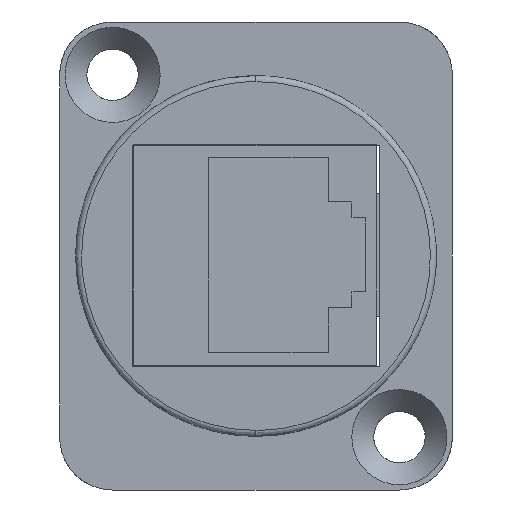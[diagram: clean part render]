
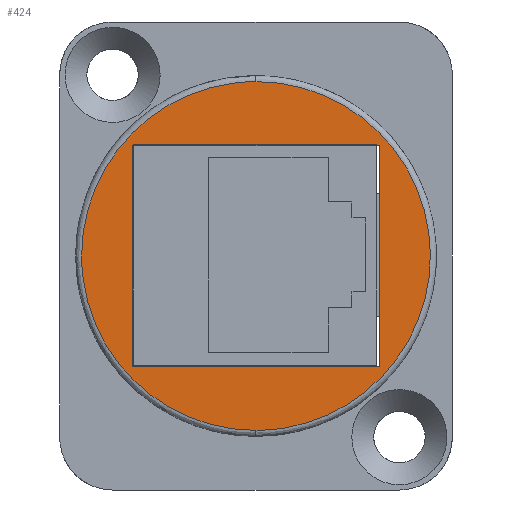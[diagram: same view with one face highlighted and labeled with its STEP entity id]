
A CAD part, front view. The second image highlights one B-rep face of the part: STEP entity #424.
In plain terms, the highlighted free-form (B-spline) face has degree [1, 1] with [2, 2] control points.
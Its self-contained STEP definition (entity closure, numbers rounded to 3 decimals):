
#44 = VERTEX_POINT('',#45);
#45 = CARTESIAN_POINT('',(0.,0.,-11.537));
#65 = EDGE_CURVE('',#44,#66,#68,.T.);
#66 = VERTEX_POINT('',#67);
#67 = CARTESIAN_POINT('',(-11.55,0.,0.013)
  );
#68 = B_SPLINE_CURVE_WITH_KNOTS('',5,(#69,#70,#71,#72,#73,#74,#75,#76,
    #77,#78,#79,#80,#81,#82,#83),.UNSPECIFIED.,.F.,.F.,(6,3,3,3,6),(0.,
    0.393,0.785,1.178,1.571),
  .UNSPECIFIED.);
#69 = CARTESIAN_POINT('',(0.,0.,
    -11.537));
#70 = CARTESIAN_POINT('',(-0.907,0.,
    -11.537));
#71 = CARTESIAN_POINT('',(-1.814,0.,
    -11.448));
#72 = CARTESIAN_POINT('',(-2.71,0.,
    -11.269));
#73 = CARTESIAN_POINT('',(-4.454,0.,
    -10.74));
#74 = CARTESIAN_POINT('',(-6.062,0.,
    -9.881));
#75 = CARTESIAN_POINT('',(-6.821,0.,
    -9.374));
#76 = CARTESIAN_POINT('',(-8.23,0.,
    -8.217));
#77 = CARTESIAN_POINT('',(-9.387,0.,
    -6.808));
#78 = CARTESIAN_POINT('',(-9.894,0.,
    -6.049));
#79 = CARTESIAN_POINT('',(-10.753,0.,
    -4.441));
#80 = CARTESIAN_POINT('',(-11.283,0.,
    -2.696));
#81 = CARTESIAN_POINT('',(-11.461,0.,
    -1.801));
#82 = CARTESIAN_POINT('',(-11.55,0.,-0.894));
#83 = CARTESIAN_POINT('',(-11.55,0.,0.013)
  );
#85 = EDGE_CURVE('',#66,#86,#88,.T.);
#86 = VERTEX_POINT('',#87);
#87 = CARTESIAN_POINT('',(0.,0.,
    11.563));
#88 = B_SPLINE_CURVE_WITH_KNOTS('',5,(#89,#90,#91,#92,#93,#94,#95,#96,
    #97,#98,#99,#100,#101,#102,#103),.UNSPECIFIED.,.F.,.F.,(6,3,3,3,6),(
    0.,0.393,0.785,1.178,1.571),
  .UNSPECIFIED.);
#89 = CARTESIAN_POINT('',(-11.55,0.,0.013)
  );
#90 = CARTESIAN_POINT('',(-11.55,0.,0.921));
#91 = CARTESIAN_POINT('',(-11.461,0.,
    1.828));
#92 = CARTESIAN_POINT('',(-11.283,0.,
    2.723));
#93 = CARTESIAN_POINT('',(-10.753,0.,
    4.467));
#94 = CARTESIAN_POINT('',(-9.894,0.,
    6.075));
#95 = CARTESIAN_POINT('',(-9.387,0.,
    6.835));
#96 = CARTESIAN_POINT('',(-8.23,0.,
    8.243));
#97 = CARTESIAN_POINT('',(-6.821,0.,
    9.4));
#98 = CARTESIAN_POINT('',(-6.062,0.,
    9.908));
#99 = CARTESIAN_POINT('',(-4.454,0.,
    10.766));
#100 = CARTESIAN_POINT('',(-2.71,0.,
    11.296));
#101 = CARTESIAN_POINT('',(-1.814,0.,
    11.474));
#102 = CARTESIAN_POINT('',(-0.907,0.,
    11.563));
#103 = CARTESIAN_POINT('',(0.,0.,
    11.563));
#244 = EDGE_CURVE('',#86,#44,#245,.T.);
#245 = B_SPLINE_CURVE_WITH_KNOTS('',5,(#246,#247,#248,#249,#250,#251,
    #252,#253,#254,#255,#256,#257,#258,#259,#260,#261,#262,#263,#264,
    #265,#266,#267,#268,#269,#270,#271,#272),.UNSPECIFIED.,.F.,.F.,(6,3,
    3,3,3,3,3,3,6),(0.,0.393,0.785,1.178,
    1.571,1.963,2.356,2.749,
    3.142),.UNSPECIFIED.);
#246 = CARTESIAN_POINT('',(0.,0.,
    11.563));
#247 = CARTESIAN_POINT('',(0.907,0.,
    11.563));
#248 = CARTESIAN_POINT('',(1.814,0.,
    11.474));
#249 = CARTESIAN_POINT('',(2.71,0.,
    11.296));
#250 = CARTESIAN_POINT('',(4.454,0.,
    10.766));
#251 = CARTESIAN_POINT('',(6.062,0.,
    9.908));
#252 = CARTESIAN_POINT('',(6.821,0.,
    9.4));
#253 = CARTESIAN_POINT('',(8.23,0.,
    8.243));
#254 = CARTESIAN_POINT('',(9.387,0.,
    6.835));
#255 = CARTESIAN_POINT('',(9.894,0.,
    6.075));
#256 = CARTESIAN_POINT('',(10.753,0.,
    4.467));
#257 = CARTESIAN_POINT('',(11.283,0.,
    2.723));
#258 = CARTESIAN_POINT('',(11.461,0.,
    1.828));
#259 = CARTESIAN_POINT('',(11.639,0.,
    0.013));
#260 = CARTESIAN_POINT('',(11.461,0.,
    -1.801));
#261 = CARTESIAN_POINT('',(11.283,0.,
    -2.696));
#262 = CARTESIAN_POINT('',(10.753,0.,
    -4.441));
#263 = CARTESIAN_POINT('',(9.894,0.,
    -6.049));
#264 = CARTESIAN_POINT('',(9.387,0.,
    -6.808));
#265 = CARTESIAN_POINT('',(8.23,0.,
    -8.217));
#266 = CARTESIAN_POINT('',(6.821,0.,
    -9.374));
#267 = CARTESIAN_POINT('',(6.062,0.,
    -9.881));
#268 = CARTESIAN_POINT('',(4.454,0.,
    -10.74));
#269 = CARTESIAN_POINT('',(2.71,0.,
    -11.269));
#270 = CARTESIAN_POINT('',(1.814,0.,
    -11.448));
#271 = CARTESIAN_POINT('',(0.907,0.,
    -11.537));
#272 = CARTESIAN_POINT('',(0.,0.,
    -11.537));
#424 = ADVANCED_FACE('',(#425,#430),#476,.F.);
#425 = FACE_BOUND('',#426,.F.);
#426 = EDGE_LOOP('',(#427,#428,#429));
#427 = ORIENTED_EDGE('',*,*,#244,.T.);
#428 = ORIENTED_EDGE('',*,*,#65,.T.);
#429 = ORIENTED_EDGE('',*,*,#85,.T.);
#430 = FACE_BOUND('',#431,.F.);
#431 = EDGE_LOOP('',(#432,#445,#456,#467));
#432 = ORIENTED_EDGE('',*,*,#433,.F.);
#433 = EDGE_CURVE('',#434,#436,#438,.T.);
#434 = VERTEX_POINT('',#435);
#435 = CARTESIAN_POINT('',(-8.15,0.,7.325));
#436 = VERTEX_POINT('',#437);
#437 = CARTESIAN_POINT('',(8.15,0.,7.325));
#438 = B_SPLINE_CURVE_WITH_KNOTS('',5,(#439,#440,#441,#442,#443,#444),
  .UNSPECIFIED.,.F.,.F.,(6,6),(0.,16.3),
  .PIECEWISE_BEZIER_KNOTS.);
#439 = CARTESIAN_POINT('',(-8.15,0.,
    7.325));
#440 = CARTESIAN_POINT('',(-4.89,0.,
    7.325));
#441 = CARTESIAN_POINT('',(-1.63,0.,
    7.325));
#442 = CARTESIAN_POINT('',(1.63,0.,
    7.325));
#443 = CARTESIAN_POINT('',(4.89,0.,
    7.325));
#444 = CARTESIAN_POINT('',(8.15,0.,
    7.325));
#445 = ORIENTED_EDGE('',*,*,#446,.F.);
#446 = EDGE_CURVE('',#447,#434,#449,.T.);
#447 = VERTEX_POINT('',#448);
#448 = CARTESIAN_POINT('',(-8.15,0.,-7.325));
#449 = B_SPLINE_CURVE_WITH_KNOTS('',5,(#450,#451,#452,#453,#454,#455),
  .UNSPECIFIED.,.F.,.F.,(6,6),(0.,14.65),
  .PIECEWISE_BEZIER_KNOTS.);
#450 = CARTESIAN_POINT('',(-8.15,0.,
    -7.325));
#451 = CARTESIAN_POINT('',(-8.15,0.,
    -4.395));
#452 = CARTESIAN_POINT('',(-8.15,0.,
    -1.465));
#453 = CARTESIAN_POINT('',(-8.15,0.,
    1.465));
#454 = CARTESIAN_POINT('',(-8.15,0.,
    4.395));
#455 = CARTESIAN_POINT('',(-8.15,0.,
    7.325));
#456 = ORIENTED_EDGE('',*,*,#457,.F.);
#457 = EDGE_CURVE('',#458,#447,#460,.T.);
#458 = VERTEX_POINT('',#459);
#459 = CARTESIAN_POINT('',(8.15,0.,-7.325));
#460 = B_SPLINE_CURVE_WITH_KNOTS('',5,(#461,#462,#463,#464,#465,#466),
  .UNSPECIFIED.,.F.,.F.,(6,6),(0.,16.3),
  .PIECEWISE_BEZIER_KNOTS.);
#461 = CARTESIAN_POINT('',(8.15,0.,
    -7.325));
#462 = CARTESIAN_POINT('',(4.89,0.,
    -7.325));
#463 = CARTESIAN_POINT('',(1.63,0.,
    -7.325));
#464 = CARTESIAN_POINT('',(-1.63,0.,
    -7.325));
#465 = CARTESIAN_POINT('',(-4.89,0.,
    -7.325));
#466 = CARTESIAN_POINT('',(-8.15,0.,
    -7.325));
#467 = ORIENTED_EDGE('',*,*,#468,.F.);
#468 = EDGE_CURVE('',#436,#458,#469,.T.);
#469 = B_SPLINE_CURVE_WITH_KNOTS('',5,(#470,#471,#472,#473,#474,#475),
  .UNSPECIFIED.,.F.,.F.,(6,6),(0.,14.65),
  .PIECEWISE_BEZIER_KNOTS.);
#470 = CARTESIAN_POINT('',(8.15,0.,
    7.325));
#471 = CARTESIAN_POINT('',(8.15,0.,
    4.395));
#472 = CARTESIAN_POINT('',(8.15,0.,
    1.465));
#473 = CARTESIAN_POINT('',(8.15,0.,
    -1.465));
#474 = CARTESIAN_POINT('',(8.15,0.,
    -4.395));
#475 = CARTESIAN_POINT('',(8.15,0.,
    -7.325));
#476 = B_SPLINE_SURFACE_WITH_KNOTS('',1,1,(
    (#477,#478)
    ,(#479,#480)),.UNSPECIFIED.,.F.,.F.,.F.,(2,2),(2,2),(0.,1.),(0.,1.),
  .PIECEWISE_BEZIER_KNOTS.);
#477 = CARTESIAN_POINT('',(-11.55,0.,-11.537));
#478 = CARTESIAN_POINT('',(11.55,0.,-11.537));
#479 = CARTESIAN_POINT('',(-11.55,0.,11.563));
#480 = CARTESIAN_POINT('',(11.55,0.,11.563));
